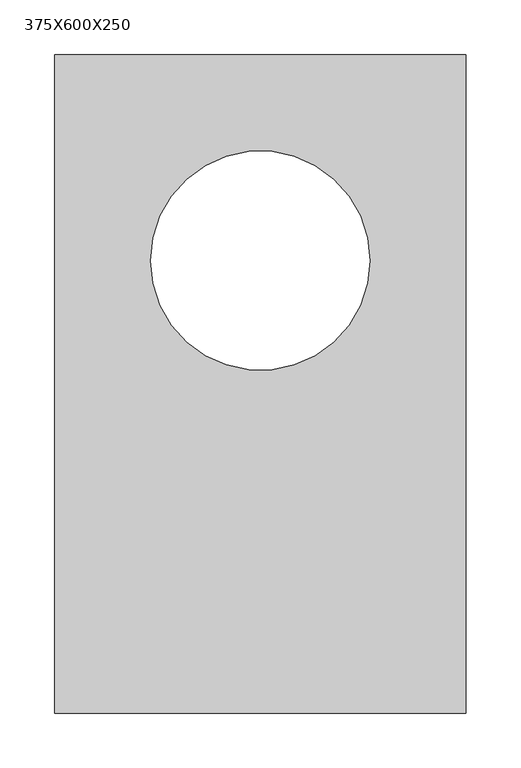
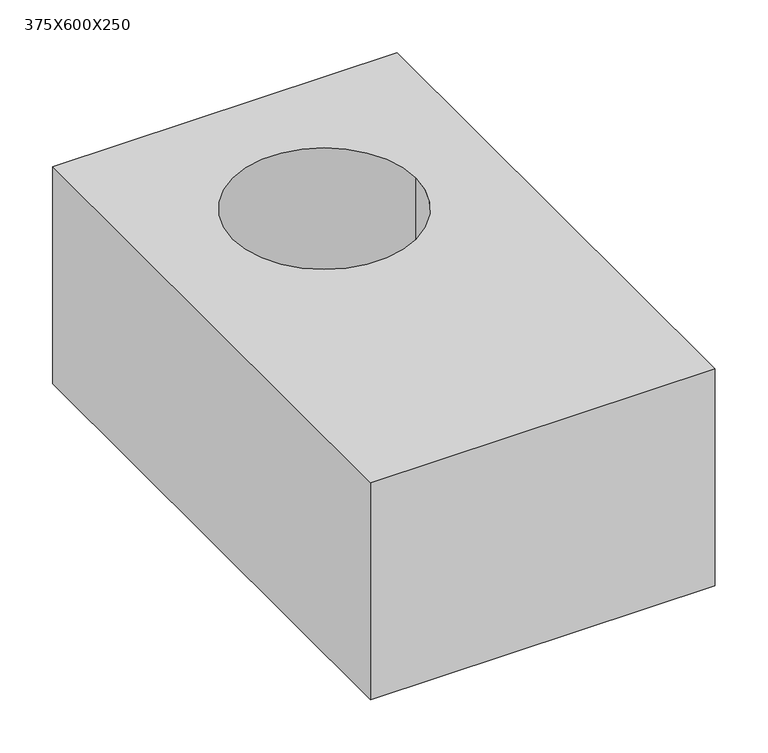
"""IFC4 building model written with IfcOpenShell, lengths in millimetres: plate geometry, GASBETON Evolution Forati : 375X600X250."""

from ifc_helpers import new_model, si_unit, point, frame_2d, origin, origin_with_axes, place, context, project, spatial, polyline, circle_curve, trimmed, segment, composite_curve, outline, extrude, source, transform, mapped, element, save


def plate_375x600x250_6cb6a36c(model_context):
    return source(origin(), model_context, "Body", "SweptSolid", [
        extrude(outline(polyline([(187.5, 300.0), (187.5, -300.0), (-187.5, -300.0), (-187.5, 300.0), (187.5, 300.0)]), holes=[composite_curve([segment(trimmed(circle_curve(frame_2d((0.0, 112.5)), 100.0), [point((-100.0, 112.5))], [point((100.0, 112.5))], True, "CARTESIAN"), True, "CONTINUOUS"), segment(trimmed(circle_curve(frame_2d((0.0, 112.5)), 100.0), [point((100.0, 112.5))], [point((-100.0, 112.5))], True, "CARTESIAN"), True, "CONTINUOUS")], self_intersect=False)]), origin_with_axes(), (0.0, 0.0, 1.0), 250.0),
    ])


if __name__ == "__main__":
    model = new_model("IFC4")
    model_context = context("Model", 3, world=origin())
    ifc_project = project(units=[si_unit("LENGTHUNIT", "METRE", prefix="MILLI")], contexts=[model_context])
    site = spatial("IfcSite", under=ifc_project)
    building = spatial("IfcBuilding", under=site)
    placement = place(None, origin())
    plate_375x600x250_shape = plate_375x600x250_6cb6a36c(model_context)
    element("IfcPlate", 1, ObjectType="GASBETON Evolution Forati : 375X600X250", at=placement, inside=building, context=model_context, shape_type="MappedRepresentation", body=[
        mapped(plate_375x600x250_shape, transform((0.0, 0.0, 0.0), x_axis=(1.0, 0.0, 0.0), y_axis=(0.0, 1.0, 0.0), z_axis=(0.0, 0.0, 1.0))),
    ])
    save(model, "model.ifc")
